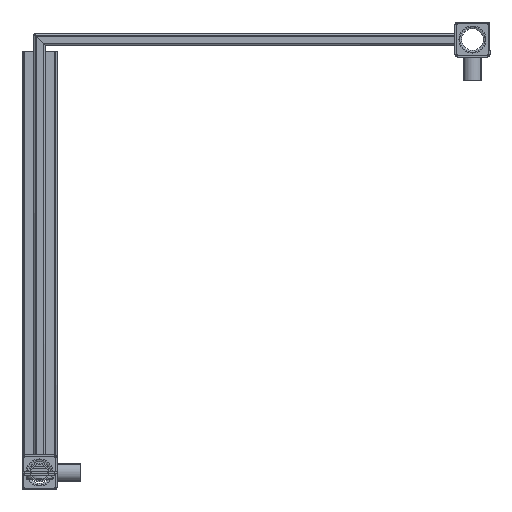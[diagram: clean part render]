
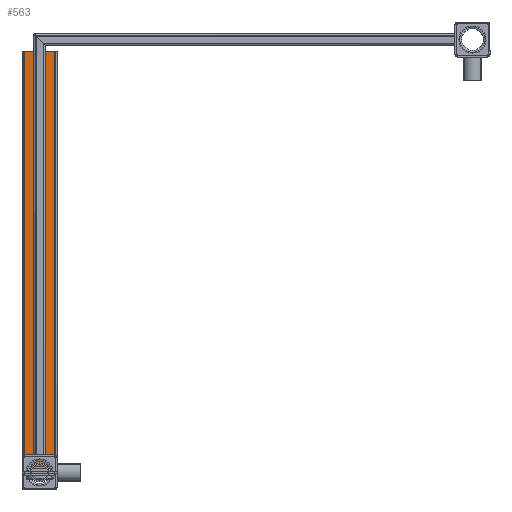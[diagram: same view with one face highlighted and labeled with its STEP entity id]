
A CAD part, front view. The second image highlights one B-rep face of the part: STEP entity #563.
In plain terms, the highlighted planar face has unit normal (0, -1, 0) as drawn and (0, 0, 1) by its records, which use the part's own axes.
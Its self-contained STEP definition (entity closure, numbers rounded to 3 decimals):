
#563 = ADVANCED_FACE( '', ( #1285 ), #1286, .T. );
#1285 = FACE_OUTER_BOUND( '', #2248, .T. );
#1286 = PLANE( '', #2249 );
#2248 = EDGE_LOOP( '', ( #3822, #3823, #3824, #3825 ) );
#2249 = AXIS2_PLACEMENT_3D( '', #3826, #3827, #3828 );
#3822 = ORIENTED_EDGE( '', *, *, #5928, .F. );
#3823 = ORIENTED_EDGE( '', *, *, #5998, .T. );
#3824 = ORIENTED_EDGE( '', *, *, #5754, .F. );
#3825 = ORIENTED_EDGE( '', *, *, #6017, .T. );
#3826 = CARTESIAN_POINT( '', ( 15., 389.28, 5. ) );
#3827 = DIRECTION( '', ( 0., 0., 1. ) );
#3828 = DIRECTION( '', ( 1., 0., 0. ) );
#5754 = EDGE_CURVE( '', #6989, #6974, #6991, .T. );
#5928 = EDGE_CURVE( '', #7265, #7267, #7268, .T. );
#5998 = EDGE_CURVE( '', #7265, #6974, #7374, .F. );
#6017 = EDGE_CURVE( '', #6989, #7267, #7403, .T. );
#6974 = VERTEX_POINT( '', #8697 );
#6989 = VERTEX_POINT( '', #8716 );
#6991 = LINE( '', #8718, #8719 );
#7265 = VERTEX_POINT( '', #9077 );
#7267 = VERTEX_POINT( '', #9079 );
#7268 = LINE( '', #9080, #9081 );
#7374 = LINE( '', #9216, #9217 );
#7403 = LINE( '', #9252, #9253 );
#8697 = CARTESIAN_POINT( '', ( 13., 380., 5. ) );
#8716 = CARTESIAN_POINT( '', ( -13., 380., 5. ) );
#8718 = CARTESIAN_POINT( '', ( -15., 380., 5. ) );
#8719 = VECTOR( '', #10466, 1000. );
#9077 = CARTESIAN_POINT( '', ( 13., 25., 5. ) );
#9079 = CARTESIAN_POINT( '', ( -13., 25., 5. ) );
#9080 = CARTESIAN_POINT( '', ( 15., 25., 5. ) );
#9081 = VECTOR( '', #10689, 1000. );
#9216 = CARTESIAN_POINT( '', ( 13., 389.28, 5. ) );
#9217 = VECTOR( '', #10791, 1000. );
#9252 = CARTESIAN_POINT( '', ( -13., 389.28, 5. ) );
#9253 = VECTOR( '', #10819, 1000. );
#10466 = DIRECTION( '', ( 1., 0., 0. ) );
#10689 = DIRECTION( '', ( -1., 0., 0. ) );
#10791 = DIRECTION( '', ( 0., -1., 0. ) );
#10819 = DIRECTION( '', ( 0., -1., 0. ) );
